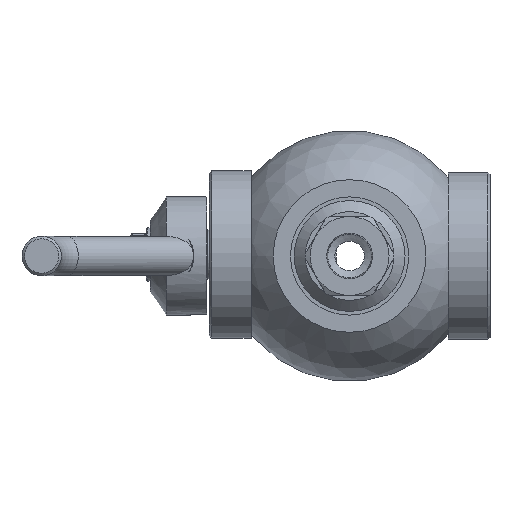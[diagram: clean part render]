
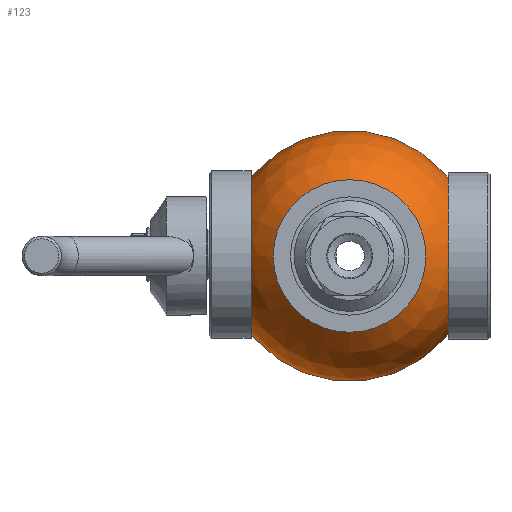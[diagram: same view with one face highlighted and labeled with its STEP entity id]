
A CAD part, left-side view. The second image highlights one B-rep face of the part: STEP entity #123.
In plain terms, the highlighted spherical face has radius 51 mm.
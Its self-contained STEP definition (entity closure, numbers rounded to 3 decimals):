
#123=ADVANCED_FACE('',(#2204,#2206),#2208,.T.);
#2204=FACE_BOUND('',#2205,.T.);
#2205=EDGE_LOOP('',(#7767));
#2206=FACE_OUTER_BOUND('',#2207,.T.);
#2207=EDGE_LOOP('',(#7768,#7769,#7770,#7771,#7772,#7773,#7774,#7775));
#2208=SPHERICAL_SURFACE('',#2209,51.);
#2209=AXIS2_PLACEMENT_3D('',#2210,#2211,#2212);
#2210=CARTESIAN_POINT('',(0.,0.,0.));
#2211=DIRECTION('',(1.,-0.,-0.));
#2212=DIRECTION('',(0.,1.,0.));
#7767=ORIENTED_EDGE('',*,*,#11989,.F.);
#7768=ORIENTED_EDGE('',*,*,#11990,.F.);
#7769=ORIENTED_EDGE('',*,*,#11991,.T.);
#7770=ORIENTED_EDGE('',*,*,#11992,.T.);
#7771=ORIENTED_EDGE('',*,*,#11991,.F.);
#7772=ORIENTED_EDGE('',*,*,#11993,.F.);
#7773=ORIENTED_EDGE('',*,*,#11994,.F.);
#7774=ORIENTED_EDGE('',*,*,#11963,.F.);
#7775=ORIENTED_EDGE('',*,*,#11994,.T.);
#11963=EDGE_CURVE('',#13644,#13644,#13645,.T.);
#11989=EDGE_CURVE('',#13689,#13689,#13690,.F.);
#11990=EDGE_CURVE('',#13691,#13692,#13693,.T.);
#11991=EDGE_CURVE('',#13691,#13694,#13695,.T.);
#11992=EDGE_CURVE('',#13694,#13694,#13696,.T.);
#11993=EDGE_CURVE('',#13692,#13691,#13697,.F.);
#11994=EDGE_CURVE('',#13644,#13692,#13698,.T.);
#13644=VERTEX_POINT('',#16443);
#13645=CIRCLE('',#16444,30.996);
#13689=VERTEX_POINT('',#17091);
#13690=CIRCLE('',#17092,31.639);
#13691=VERTEX_POINT('',#17096);
#13692=VERTEX_POINT('',#17097);
#13693=TRIMMED_CURVE('',#17098,(PARAMETER_VALUE(0.)),(PARAMETER_VALUE(3.142)),
.T.,.PARAMETER.);
#13694=VERTEX_POINT('',#17099);
#13695=CIRCLE('',#17100,51.);
#13696=CIRCLE('',#17104,30.996);
#13697=TRIMMED_CURVE('',#17108,(PARAMETER_VALUE(0.)),(PARAMETER_VALUE(3.142)),
.T.,.PARAMETER.);
#13698=CIRCLE('',#17109,51.);
#16443=CARTESIAN_POINT('',(40.5,30.996,0.));
#16444=AXIS2_PLACEMENT_3D('',#16445,#16446,#16447);
#16445=CARTESIAN_POINT('',(40.5,0.,0.));
#16446=DIRECTION('',(1.,-0.,-0.));
#16447=DIRECTION('',(0.,1.,0.));
#17091=CARTESIAN_POINT('',(-29.23,-40.,12.108));
#17092=AXIS2_PLACEMENT_3D('',#17093,#17094,#17095);
#17093=CARTESIAN_POINT('',(0.,-40.,0.));
#17094=DIRECTION('',(0.,1.,0.));
#17095=DIRECTION('',(-0.924,0.,0.383));
#17096=CARTESIAN_POINT('',(-31.639,40.,0.));
#17097=CARTESIAN_POINT('',(31.639,40.,0.));
#17098=CIRCLE('',#27276,31.639);
#17099=CARTESIAN_POINT('',(-40.5,30.996,0.));
#17100=AXIS2_PLACEMENT_3D('',#17101,#17102,#17103);
#17101=CARTESIAN_POINT('',(0.,0.,0.));
#17102=DIRECTION('',(0.,0.,1.));
#17103=DIRECTION('',(-0.62,0.784,0.));
#17104=AXIS2_PLACEMENT_3D('',#17105,#17106,#17107);
#17105=CARTESIAN_POINT('',(-40.5,0.,0.));
#17106=DIRECTION('',(1.,-0.,-0.));
#17107=DIRECTION('',(0.,1.,0.));
#17108=CIRCLE('',#27280,31.639);
#17109=AXIS2_PLACEMENT_3D('',#17110,#17111,#17112);
#17110=CARTESIAN_POINT('',(0.,0.,0.));
#17111=DIRECTION('',(0.,0.,1.));
#17112=DIRECTION('',(0.794,0.608,0.));
#27276=AXIS2_PLACEMENT_3D('',#27277,#27278,#27279);
#27277=CARTESIAN_POINT('',(0.,40.,0.));
#27278=DIRECTION('',(0.,1.,0.));
#27279=DIRECTION('',(-1.,0.,0.));
#27280=AXIS2_PLACEMENT_3D('',#27281,#27282,#27283);
#27281=CARTESIAN_POINT('',(0.,40.,0.));
#27282=DIRECTION('',(0.,-1.,0.));
#27283=DIRECTION('',(-1.,0.,0.));
